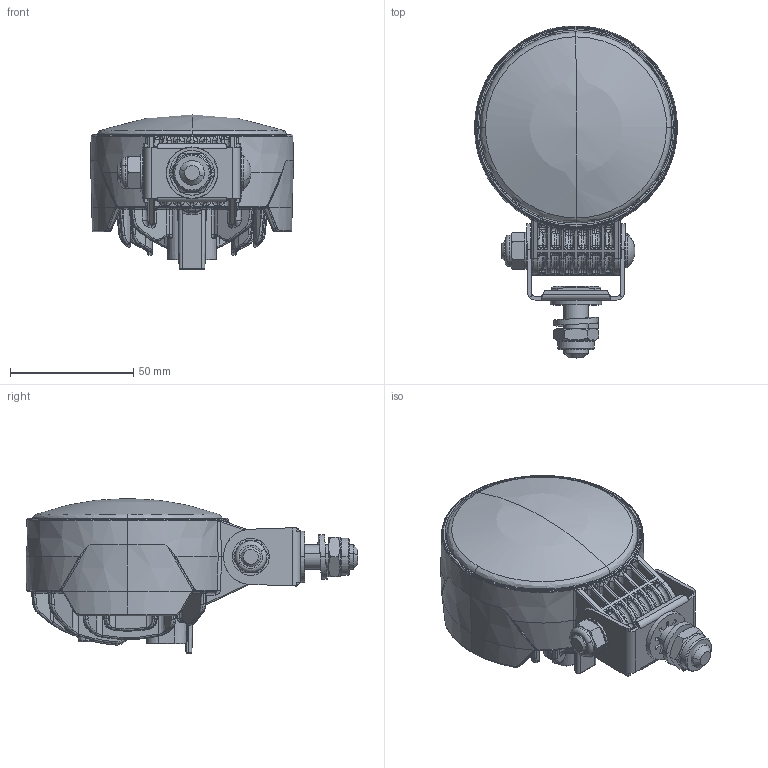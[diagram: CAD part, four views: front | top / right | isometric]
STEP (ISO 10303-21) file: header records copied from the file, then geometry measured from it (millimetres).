
FILE_DESCRIPTION(('CATIA V5 STEP Exchange','CAx-IF Rec.Pracs.--- Model Styling and Organization---1.5--- 2016-08-15','CAx-IF Rec.Pracs.---Supplemental Geometry---1.0---2011-11-01','CAx-IF Rec.Pracs.--- Composite Materials ---1.1---2010-07-15'),'2;1');
FILE_NAME('C:\Users\goengy1\Desktop\MY2021\10003116390_D10_001_ASW NA 0GR MD12-24 DT M70-I.stp','2022-02-07T12:07:41+00:00',('none'),('none'),'CATIA Version 5-6 Release 2020 SP3 HF9','CATIA V5 STEP AP214 v2','none');
FILE_SCHEMA(('AUTOMOTIVE_DESIGN { 1 0 10303 214 1 1 1 1 }'));
Length unit declared in the file: millimetre
Products named in the file (1): 10003116390_D10_001
Bounding box: 82.34 x 134.66 x 62.85 mm (x, y, z)
Surface area: 49329.5 mm2 (no closed solid volume)
Topology: 0 solids, 13 shells, 2387 faces, 6334 edges, 3750 vertices
Faces by surface type: bspline 911, cylinder 610, plane 346, torus 204, sphere 162, cone 154
Entity records: 116161 total; most frequent: CARTESIAN_POINT 69603, ORIENTED_EDGE 11547, EDGE_CURVE 6089, DIRECTION 5417, VERTEX_POINT 3750, B_SPLINE_CURVE_WITH_KNOTS 3068, AXIS2_PLACEMENT_3D 2470, EDGE_LOOP 2463
